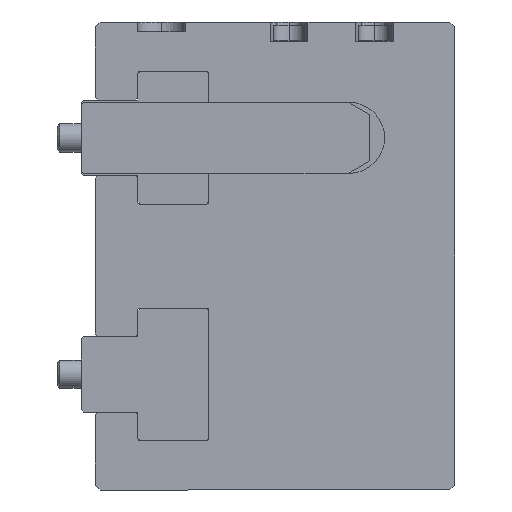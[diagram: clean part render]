
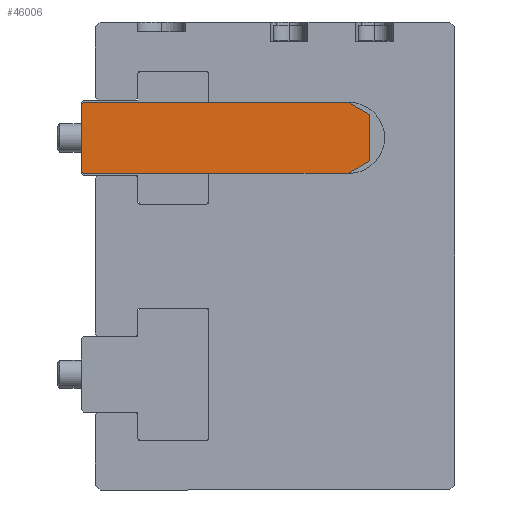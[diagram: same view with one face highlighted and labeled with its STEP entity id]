
A CAD part, left-side view. The second image highlights one B-rep face of the part: STEP entity #46006.
In plain terms, the highlighted planar face has unit normal (-1, 0, 0).
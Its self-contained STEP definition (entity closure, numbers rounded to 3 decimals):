
#1878 = ORIENTED_EDGE ( 'NONE', *, *, #3977, .T. ) ;
#2577 = DIRECTION ( 'NONE',  ( 0., 0., -1. ) ) ;
#3258 = VERTEX_POINT ( 'NONE', #30018 ) ;
#3357 = FACE_OUTER_BOUND ( 'NONE', #26990, .T. ) ;
#3977 = EDGE_CURVE ( 'NONE', #31687, #12852, #16303, .T. ) ;
#4441 = CARTESIAN_POINT ( 'NONE',  ( -152., -34., -4.902 ) ) ;
#5692 = VECTOR ( 'NONE', #11067, 1000. ) ;
#6204 = LINE ( 'NONE', #24770, #35674 ) ;
#6845 = LINE ( 'NONE', #47692, #5692 ) ;
#6931 = CARTESIAN_POINT ( 'NONE',  ( -152., -29.5, 7.5 ) ) ;
#7022 = CARTESIAN_POINT ( 'NONE',  ( -152., 26.499, 7.5 ) ) ;
#8725 = EDGE_CURVE ( 'NONE', #31118, #3258, #14380, .T. ) ;
#10108 = LINE ( 'NONE', #17550, #29794 ) ;
#10375 = DIRECTION ( 'NONE',  ( 0., 1., 0. ) ) ;
#11067 = DIRECTION ( 'NONE',  ( 0., -1., 0. ) ) ;
#12581 = DIRECTION ( 'NONE',  ( 0., 0., 1. ) ) ;
#12852 = VERTEX_POINT ( 'NONE', #7022 ) ;
#14111 = ORIENTED_EDGE ( 'NONE', *, *, #25359, .T. ) ;
#14380 = LINE ( 'NONE', #38312, #25338 ) ;
#14992 = DIRECTION ( 'NONE',  ( 0., 0.866, 0.5 ) ) ;
#15303 = PLANE ( 'NONE',  #40387 ) ;
#16234 = DIRECTION ( 'NONE',  ( 0., 0.707, -0.707 ) ) ;
#16303 = LINE ( 'NONE', #25550, #23812 ) ;
#16513 = EDGE_CURVE ( 'NONE', #28920, #31118, #47383, .T. ) ;
#17154 = EDGE_CURVE ( 'NONE', #3258, #31687, #38318, .T. ) ;
#17550 = CARTESIAN_POINT ( 'NONE',  ( -152., 26.999, -7. ) ) ;
#18985 = DIRECTION ( 'NONE',  ( -1., 0., 0. ) ) ;
#20086 = VERTEX_POINT ( 'NONE', #42219 ) ;
#23812 = VECTOR ( 'NONE', #10375, 1000. ) ;
#24770 = CARTESIAN_POINT ( 'NONE',  ( -152., 26.999, -7. ) ) ;
#25324 = ORIENTED_EDGE ( 'NONE', *, *, #17154, .T. ) ;
#25338 = VECTOR ( 'NONE', #12581, 1000. ) ;
#25359 = EDGE_CURVE ( 'NONE', #20086, #42157, #6204, .T. ) ;
#25550 = CARTESIAN_POINT ( 'NONE',  ( -152., 26.499, 7.5 ) ) ;
#26990 = EDGE_LOOP ( 'NONE', ( #44978, #14111, #38684, #32486, #31699, #29248, #25324, #1878 ) ) ;
#27802 = DIRECTION ( 'NONE',  ( 0., -0.866, 0.5 ) ) ;
#28891 = CARTESIAN_POINT ( 'NONE',  ( -152., -34., 4.902 ) ) ;
#28920 = VERTEX_POINT ( 'NONE', #42276 ) ;
#29122 = VECTOR ( 'NONE', #27802, 1000. ) ;
#29248 = ORIENTED_EDGE ( 'NONE', *, *, #8725, .T. ) ;
#29794 = VECTOR ( 'NONE', #43249, 1000. ) ;
#30018 = CARTESIAN_POINT ( 'NONE',  ( -152., -34., 4.902 ) ) ;
#31118 = VERTEX_POINT ( 'NONE', #4441 ) ;
#31687 = VERTEX_POINT ( 'NONE', #6931 ) ;
#31699 = ORIENTED_EDGE ( 'NONE', *, *, #16513, .T. ) ;
#32486 = ORIENTED_EDGE ( 'NONE', *, *, #45970, .T. ) ;
#35154 = EDGE_CURVE ( 'NONE', #12852, #20086, #37911, .T. ) ;
#35674 = VECTOR ( 'NONE', #2577, 1000. ) ;
#35708 = CARTESIAN_POINT ( 'NONE',  ( -152., 26.499, -7.5 ) ) ;
#37636 = CARTESIAN_POINT ( 'NONE',  ( -152., 26.999, 7. ) ) ;
#37911 = LINE ( 'NONE', #37636, #39035 ) ;
#38312 = CARTESIAN_POINT ( 'NONE',  ( -152., -34., -4.902 ) ) ;
#38318 = LINE ( 'NONE', #28891, #41762 ) ;
#38684 = ORIENTED_EDGE ( 'NONE', *, *, #46996, .T. ) ;
#38847 = CARTESIAN_POINT ( 'NONE',  ( -152., -34., -4.902 ) ) ;
#39035 = VECTOR ( 'NONE', #16234, 1000. ) ;
#39213 = VERTEX_POINT ( 'NONE', #35708 ) ;
#40387 = AXIS2_PLACEMENT_3D ( 'NONE', #40996, #18985, #44662 ) ;
#40996 = CARTESIAN_POINT ( 'NONE',  ( -152., 33.999, 0. ) ) ;
#41762 = VECTOR ( 'NONE', #14992, 1000. ) ;
#42157 = VERTEX_POINT ( 'NONE', #44263 ) ;
#42219 = CARTESIAN_POINT ( 'NONE',  ( -152., 26.999, 7. ) ) ;
#42276 = CARTESIAN_POINT ( 'NONE',  ( -152., -29.5, -7.5 ) ) ;
#43249 = DIRECTION ( 'NONE',  ( 0., -0.707, -0.707 ) ) ;
#44263 = CARTESIAN_POINT ( 'NONE',  ( -152., 26.999, -7. ) ) ;
#44662 = DIRECTION ( 'NONE',  ( 0., 0., 1. ) ) ;
#44978 = ORIENTED_EDGE ( 'NONE', *, *, #35154, .T. ) ;
#45970 = EDGE_CURVE ( 'NONE', #39213, #28920, #6845, .T. ) ;
#46006 = ADVANCED_FACE ( 'NONE', ( #3357 ), #15303, .T. ) ;
#46996 = EDGE_CURVE ( 'NONE', #42157, #39213, #10108, .T. ) ;
#47383 = LINE ( 'NONE', #38847, #29122 ) ;
#47692 = CARTESIAN_POINT ( 'NONE',  ( -152., 26.499, -7.5 ) ) ;
